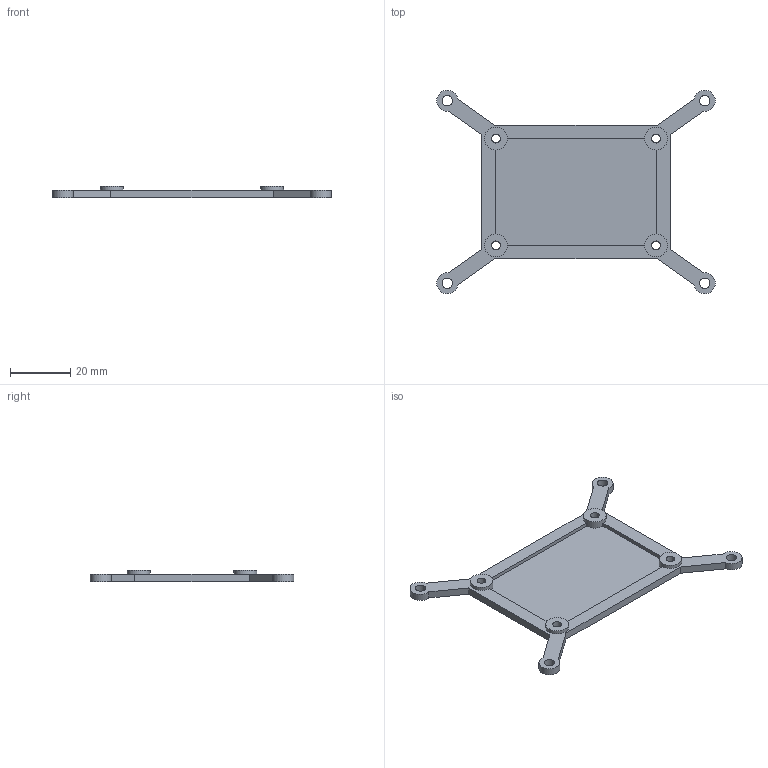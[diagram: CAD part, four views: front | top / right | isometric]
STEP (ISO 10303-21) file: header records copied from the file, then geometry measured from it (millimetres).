
FILE_DESCRIPTION (( 'STEP AP203' ), '1' );
FILE_NAME ('Power Bracket.step', '2015-03-14T23:35:58', ( '' ), ( '' ), 'SwSTEP 2.0', 'SolidWorks 2013', '' );
FILE_SCHEMA (( 'CONFIG_CONTROL_DESIGN' ));
Length unit declared in the file: inch
Products named in the file (1): Power Bracket
Bounding box: 92.71 x 67.71 x 3.81 mm (x, y, z)
Volume: 5788.8 mm3; surface area: 7770.1 mm2
Topology: 1 solids, 1 shells, 39 faces, 106 edges, 70 vertices
Faces by surface type: plane 23, cylinder 16
Full cylindrical faces by diameter (mm): 2.946 x4, 3.454 x4, 7.62 x4
Entity records: 1273 total; most frequent: DIRECTION 208, CARTESIAN_POINT 200, ORIENTED_EDGE 184, EDGE_CURVE 92, AXIS2_PLACEMENT_3D 76, EDGE_LOOP 68, VERTEX_POINT 68, VECTOR 56
